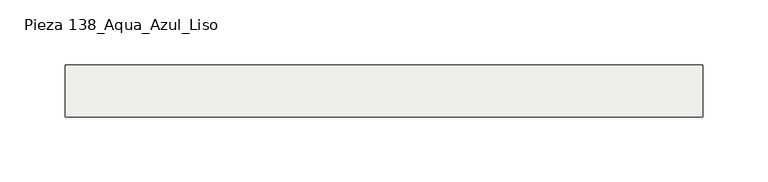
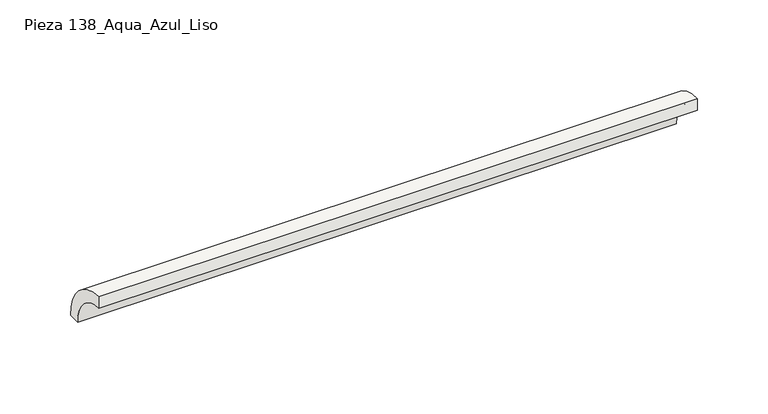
"""IFC4 building model written with IfcOpenShell, lengths in millimetres: slab geometry, ROSA GRES_138 : Pieza 138_Aqua_Azul_Liso."""

from ifc_helpers import new_model, si_unit, point, frame, frame_2d, origin, origin_2d, place, context, project, spatial, polyline, circle_curve, trimmed, segment, composite_curve, outline, extrude, source, transform, mapped, element, save


def pieza_138_aqua_azul_liso_94dbf483(model_context):
    return source(origin(), model_context, "Body", "SweptSolid", [
        extrude(outline(composite_curve([segment(trimmed(circle_curve(origin_2d(), 40.0), [point((0.0, 40.0))], [point((40.0, 0.0))], False, "CARTESIAN"), True, "CONTINUOUS"), segment(polyline([(40.0, 0.0), (30.0265886, 0.0)]), True, "CONTINUOUS"), segment(trimmed(circle_curve(frame_2d((0.0044453, 0.0044453)), 30.0221435), [point((30.0265886, 0.0))], [point((0.0, 30.0265886))], True, "CARTESIAN"), True, "CONTINUOUS"), segment(polyline([(0.0, 30.0265886), (0.0, 40.0)]), True, "CONTINUOUS")], self_intersect=False)), frame((0.0, 0.0, 0.0), z_axis=(1.0, 0.0, 0.0), x_axis=(0.0, 1.0, 0.0)), (0.0, 0.0, 1.0), 490.0),
    ])


if __name__ == "__main__":
    model = new_model("IFC4")
    model_context = context("Model", 3, world=origin())
    ifc_project = project(units=[si_unit("LENGTHUNIT", "METRE", prefix="MILLI")], contexts=[model_context])
    site = spatial("IfcSite", under=ifc_project)
    building = spatial("IfcBuilding", under=site)
    placement = place(None, origin())
    pieza_138_aqua_azul_liso_shape = pieza_138_aqua_azul_liso_94dbf483(model_context)
    element("IfcSlab", 1, ObjectType="ROSA GRES_138 : Pieza 138_Aqua_Azul_Liso", at=placement, inside=building, context=model_context, shape_type="MappedRepresentation", body=[
        mapped(pieza_138_aqua_azul_liso_shape, transform((0.0, 0.0, 0.0), x_axis=(1.0, 0.0, 0.0), y_axis=(0.0, 1.0, 0.0), z_axis=(0.0, 0.0, 1.0))),
    ])
    save(model, "model.ifc")
